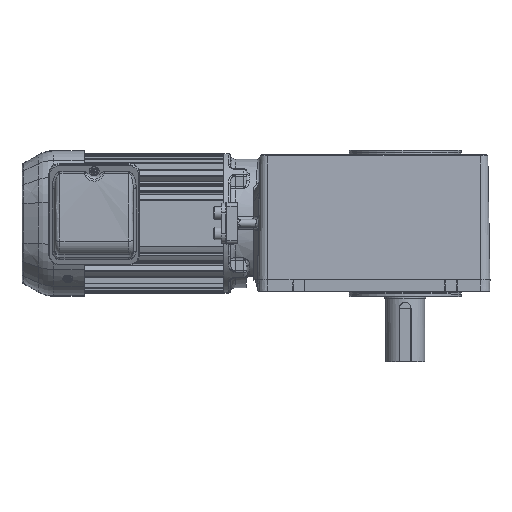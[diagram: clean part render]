
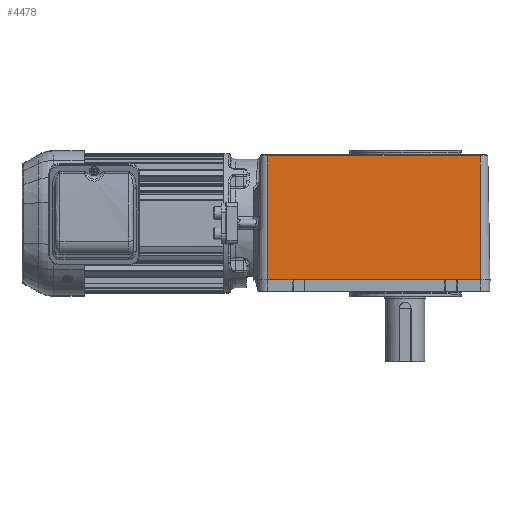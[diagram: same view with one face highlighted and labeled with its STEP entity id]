
A CAD part, top view. The second image highlights one B-rep face of the part: STEP entity #4478.
In plain terms, the highlighted planar face has unit normal (0, 0.018, 1).
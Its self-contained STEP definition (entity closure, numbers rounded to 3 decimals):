
#4478 = ADVANCED_FACE( '', ( #9587 ), #9588, .T. );
#9587 = FACE_OUTER_BOUND( '', #22487, .T. );
#9588 = PLANE( '', #22488 );
#22487 = EDGE_LOOP( '', ( #37568, #37569, #37570, #37571, #37572, #37573, #37574, #37575 ) );
#22488 = AXIS2_PLACEMENT_3D( '', #37576, #37577, #37578 );
#37568 = ORIENTED_EDGE( '', *, *, #45146, .F. );
#37569 = ORIENTED_EDGE( '', *, *, #44342, .T. );
#37570 = ORIENTED_EDGE( '', *, *, #43434, .T. );
#37571 = ORIENTED_EDGE( '', *, *, #45147, .F. );
#37572 = ORIENTED_EDGE( '', *, *, #43750, .T. );
#37573 = ORIENTED_EDGE( '', *, *, #45148, .F. );
#37574 = ORIENTED_EDGE( '', *, *, #42325, .T. );
#37575 = ORIENTED_EDGE( '', *, *, #44356, .F. );
#37576 = CARTESIAN_POINT( '', ( 73.374, 17., 61. ) );
#37577 = DIRECTION( '', ( 0., 0.017, 1. ) );
#37578 = DIRECTION( '', ( 0., -1., 0.017 ) );
#42325 = EDGE_CURVE( '', #49404, #49057, #49405, .T. );
#43434 = EDGE_CURVE( '', #47933, #51020, #51021, .T. );
#43750 = EDGE_CURVE( '', #50620, #47962, #51448, .T. );
#44342 = EDGE_CURVE( '', #52236, #47933, #52237, .T. );
#44356 = EDGE_CURVE( '', #52252, #49057, #52253, .T. );
#45146 = EDGE_CURVE( '', #52236, #52252, #53178, .T. );
#45147 = EDGE_CURVE( '', #50620, #51020, #53179, .T. );
#45148 = EDGE_CURVE( '', #49404, #47962, #53180, .T. );
#47933 = VERTEX_POINT( '', #57908 );
#47962 = VERTEX_POINT( '', #58001 );
#49057 = VERTEX_POINT( '', #60319 );
#49404 = VERTEX_POINT( '', #60953 );
#49405 = LINE( '', #60954, #60955 );
#50620 = VERTEX_POINT( '', #63110 );
#51020 = VERTEX_POINT( '', #63997 );
#51021 = LINE( '', #63998, #63999 );
#51448 = LINE( '', #64994, #64995 );
#52236 = VERTEX_POINT( '', #66635 );
#52237 = LINE( '', #66636, #66637 );
#52252 = VERTEX_POINT( '', #66658 );
#52253 = LINE( '', #66659, #66660 );
#53178 = LINE( '', #68910, #68911 );
#53179 = LINE( '', #68912, #68913 );
#53180 = LINE( '', #68914, #68915 );
#57908 = CARTESIAN_POINT( '', ( -35.626, 144., 58.783 ) );
#58001 = CARTESIAN_POINT( '', ( 2.374, 17., 61. ) );
#60319 = CARTESIAN_POINT( '', ( 158.638, 17., 61. ) );
#60953 = CARTESIAN_POINT( '', ( 146.111, 17., 61. ) );
#60954 = CARTESIAN_POINT( '', ( 73.374, 17., 61. ) );
#60955 = VECTOR( '', #73252, 1000. );
#63110 = CARTESIAN_POINT( '', ( -9.626, 17., 61. ) );
#63997 = CARTESIAN_POINT( '', ( -35.626, 17., 61. ) );
#63998 = CARTESIAN_POINT( '', ( -35.626, 17., 61. ) );
#63999 = VECTOR( '', #74699, 1000. );
#64994 = CARTESIAN_POINT( '', ( -9.626, 17., 61. ) );
#64995 = VECTOR( '', #75090, 1000. );
#66635 = CARTESIAN_POINT( '', ( 182.374, 144., 58.783 ) );
#66636 = CARTESIAN_POINT( '', ( -35.626, 144., 58.783 ) );
#66637 = VECTOR( '', #75918, 1000. );
#66658 = CARTESIAN_POINT( '', ( 182.374, 17., 61. ) );
#66659 = CARTESIAN_POINT( '', ( -35.626, 17., 61. ) );
#66660 = VECTOR( '', #75934, 1000. );
#68910 = CARTESIAN_POINT( '', ( 182.374, 17., 61. ) );
#68911 = VECTOR( '', #76768, 1000. );
#68912 = CARTESIAN_POINT( '', ( -35.626, 17., 61. ) );
#68913 = VECTOR( '', #76769, 1000. );
#68914 = CARTESIAN_POINT( '', ( -35.626, 17., 61. ) );
#68915 = VECTOR( '', #76770, 1000. );
#73252 = DIRECTION( '', ( 1., 0., 0. ) );
#74699 = DIRECTION( '', ( 0., -1., 0.017 ) );
#75090 = DIRECTION( '', ( 1., 0., 0. ) );
#75918 = DIRECTION( '', ( -1., 0., 0. ) );
#75934 = DIRECTION( '', ( -1., 0., 0. ) );
#76768 = DIRECTION( '', ( 0., -1., 0.017 ) );
#76769 = DIRECTION( '', ( -1., 0., 0. ) );
#76770 = DIRECTION( '', ( -1., 0., 0. ) );
